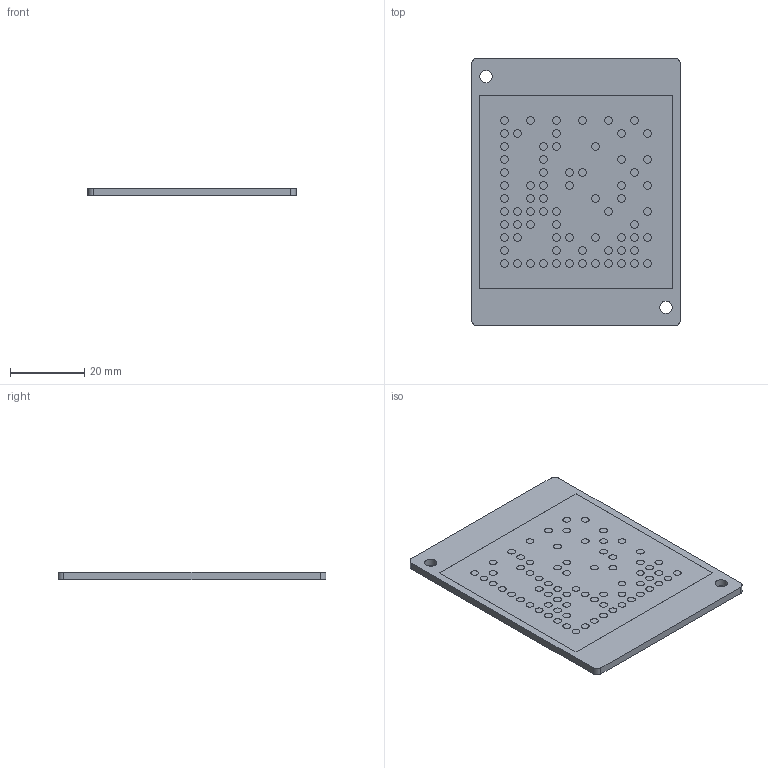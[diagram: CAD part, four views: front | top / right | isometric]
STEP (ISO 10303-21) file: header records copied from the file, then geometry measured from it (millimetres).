
FILE_DESCRIPTION(/* description */ (''),/* implementation_level */ '2;1');
FILE_NAME(/* name */ '153-13705_ZTM 50-D2-2x3.3.stp',/* time_stamp */ '2024-01-23T08:16:20+01:00',/* author */ ('SensoPart'),/* organization */ ('SensoPart'),/* preprocessor_version */ 'ST-DEVELOPER v19.2',/* originating_system */ 'Autodesk Inventor 2023',/* authorisation */ '');
FILE_SCHEMA (('AUTOMOTIVE_DESIGN { 1 0 10303 214 3 1 1 }'));
Length unit declared in the file: millimetre
Products named in the file (1): GH-ENG-0038652
Bounding box: 56 x 72 x 2 mm (x, y, z)
Volume: 7996.4 mm3; surface area: 8581.1 mm2
Topology: 1 solids, 1 shells, 163 faces, 261 edges, 174 vertices
Faces by surface type: plane 84, cylinder 79
Full cylindrical faces by diameter (mm): 2.1 x73, 3.3 x2
Entity records: 4011 total; most frequent: DIRECTION 747, CARTESIAN_POINT 599, ORIENTED_EDGE 522, AXIS2_PLACEMENT_3D 322, EDGE_CURVE 261, EDGE_LOOP 241, VERTEX_POINT 174, FACE_OUTER_BOUND 163
